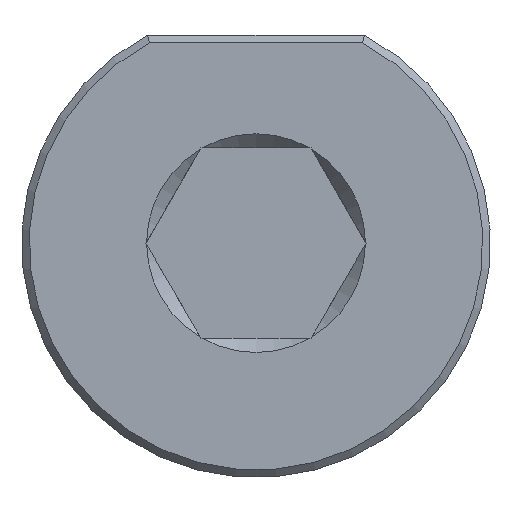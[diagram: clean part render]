
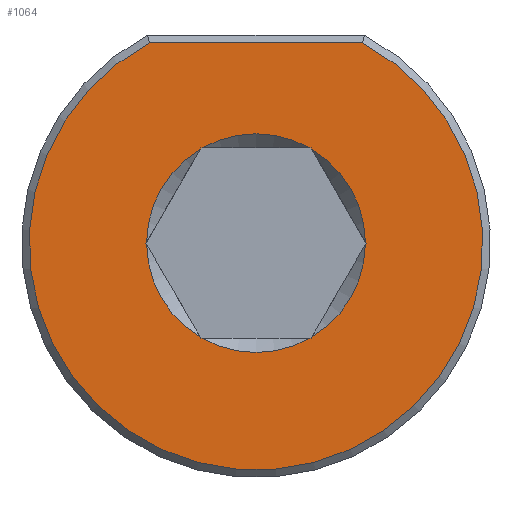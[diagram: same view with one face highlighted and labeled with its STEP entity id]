
A CAD part, front view. The second image highlights one B-rep face of the part: STEP entity #1064.
In plain terms, the highlighted planar face has unit normal (0, -1, 0).
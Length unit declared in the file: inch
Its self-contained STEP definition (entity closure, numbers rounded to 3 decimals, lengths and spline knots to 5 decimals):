
#46=PLANE('',#1187);
#73=FACE_BOUND('',#262,.T.);
#100=CIRCLE('',#1181,0.5975);
#105=CIRCLE('',#1188,0.288);
#106=CIRCLE('',#1189,0.288);
#107=CIRCLE('',#1190,0.288);
#108=CIRCLE('',#1191,0.288);
#109=CIRCLE('',#1192,0.288);
#110=CIRCLE('',#1193,0.288);
#196=FACE_OUTER_BOUND('',#261,.T.);
#261=EDGE_LOOP('',(#815,#816));
#262=EDGE_LOOP('',(#817,#818,#819,#820,#821,#822,#823,#824,#825,#826,#827,
#828,#829,#830,#831,#832,#833,#834));
#329=LINE('',#1932,#385);
#331=LINE('',#1956,#387);
#332=LINE('',#1958,#388);
#333=LINE('',#1962,#389);
#334=LINE('',#1964,#390);
#335=LINE('',#1968,#391);
#336=LINE('',#1970,#392);
#337=LINE('',#1974,#393);
#338=LINE('',#1976,#394);
#339=LINE('',#1980,#395);
#340=LINE('',#1982,#396);
#341=LINE('',#1986,#397);
#342=LINE('',#1988,#398);
#385=VECTOR('',#1376,0.3937);
#387=VECTOR('',#1394,0.3937);
#388=VECTOR('',#1395,0.3937);
#389=VECTOR('',#1398,0.3937);
#390=VECTOR('',#1399,0.3937);
#391=VECTOR('',#1402,0.3937);
#392=VECTOR('',#1403,0.3937);
#393=VECTOR('',#1406,0.3937);
#394=VECTOR('',#1407,0.3937);
#395=VECTOR('',#1410,0.3937);
#396=VECTOR('',#1411,0.3937);
#397=VECTOR('',#1414,0.3937);
#398=VECTOR('',#1415,0.3937);
#478=VERTEX_POINT('',#1930);
#479=VERTEX_POINT('',#1931);
#484=VERTEX_POINT('',#1954);
#485=VERTEX_POINT('',#1955);
#486=VERTEX_POINT('',#1957);
#487=VERTEX_POINT('',#1959);
#488=VERTEX_POINT('',#1961);
#489=VERTEX_POINT('',#1963);
#490=VERTEX_POINT('',#1965);
#491=VERTEX_POINT('',#1967);
#492=VERTEX_POINT('',#1969);
#493=VERTEX_POINT('',#1971);
#494=VERTEX_POINT('',#1973);
#495=VERTEX_POINT('',#1975);
#496=VERTEX_POINT('',#1977);
#497=VERTEX_POINT('',#1979);
#498=VERTEX_POINT('',#1981);
#499=VERTEX_POINT('',#1983);
#500=VERTEX_POINT('',#1985);
#501=VERTEX_POINT('',#1987);
#603=EDGE_CURVE('',#478,#479,#329,.T.);
#607=EDGE_CURVE('',#479,#478,#100,.T.);
#612=EDGE_CURVE('',#484,#485,#331,.T.);
#613=EDGE_CURVE('',#485,#486,#332,.T.);
#614=EDGE_CURVE('',#487,#486,#105,.T.);
#615=EDGE_CURVE('',#487,#488,#333,.T.);
#616=EDGE_CURVE('',#488,#489,#334,.T.);
#617=EDGE_CURVE('',#490,#489,#106,.T.);
#618=EDGE_CURVE('',#490,#491,#335,.T.);
#619=EDGE_CURVE('',#491,#492,#336,.T.);
#620=EDGE_CURVE('',#493,#492,#107,.T.);
#621=EDGE_CURVE('',#493,#494,#337,.T.);
#622=EDGE_CURVE('',#494,#495,#338,.T.);
#623=EDGE_CURVE('',#496,#495,#108,.T.);
#624=EDGE_CURVE('',#496,#497,#339,.T.);
#625=EDGE_CURVE('',#497,#498,#340,.T.);
#626=EDGE_CURVE('',#499,#498,#109,.T.);
#627=EDGE_CURVE('',#499,#500,#341,.T.);
#628=EDGE_CURVE('',#500,#501,#342,.T.);
#629=EDGE_CURVE('',#484,#501,#110,.T.);
#815=ORIENTED_EDGE('',*,*,#603,.F.);
#816=ORIENTED_EDGE('',*,*,#607,.F.);
#817=ORIENTED_EDGE('',*,*,#612,.T.);
#818=ORIENTED_EDGE('',*,*,#613,.T.);
#819=ORIENTED_EDGE('',*,*,#614,.F.);
#820=ORIENTED_EDGE('',*,*,#615,.T.);
#821=ORIENTED_EDGE('',*,*,#616,.T.);
#822=ORIENTED_EDGE('',*,*,#617,.F.);
#823=ORIENTED_EDGE('',*,*,#618,.T.);
#824=ORIENTED_EDGE('',*,*,#619,.T.);
#825=ORIENTED_EDGE('',*,*,#620,.F.);
#826=ORIENTED_EDGE('',*,*,#621,.T.);
#827=ORIENTED_EDGE('',*,*,#622,.T.);
#828=ORIENTED_EDGE('',*,*,#623,.F.);
#829=ORIENTED_EDGE('',*,*,#624,.T.);
#830=ORIENTED_EDGE('',*,*,#625,.T.);
#831=ORIENTED_EDGE('',*,*,#626,.F.);
#832=ORIENTED_EDGE('',*,*,#627,.T.);
#833=ORIENTED_EDGE('',*,*,#628,.T.);
#834=ORIENTED_EDGE('',*,*,#629,.F.);
#1064=ADVANCED_FACE('',(#196,#73),#46,.T.);
#1181=AXIS2_PLACEMENT_3D('',#1943,#1380,#1381);
#1187=AXIS2_PLACEMENT_3D('',#1953,#1392,#1393);
#1188=AXIS2_PLACEMENT_3D('',#1960,#1396,#1397);
#1189=AXIS2_PLACEMENT_3D('',#1966,#1400,#1401);
#1190=AXIS2_PLACEMENT_3D('',#1972,#1404,#1405);
#1191=AXIS2_PLACEMENT_3D('',#1978,#1408,#1409);
#1192=AXIS2_PLACEMENT_3D('',#1984,#1412,#1413);
#1193=AXIS2_PLACEMENT_3D('',#1989,#1416,#1417);
#1376=DIRECTION('',(1.,0.,0.));
#1380=DIRECTION('center_axis',(0.,1.,0.));
#1381=DIRECTION('ref_axis',(0.,0.,-1.));
#1392=DIRECTION('center_axis',(0.,-1.,0.));
#1393=DIRECTION('ref_axis',(0.,0.,-1.));
#1394=DIRECTION('',(0.5,0.,-0.866));
#1395=DIRECTION('',(-0.5,0.,-0.866));
#1396=DIRECTION('center_axis',(0.,-1.,0.));
#1397=DIRECTION('ref_axis',(0.,0.,1.));
#1398=DIRECTION('',(-0.5,0.,-0.866));
#1399=DIRECTION('',(-1.,0.,0.));
#1400=DIRECTION('center_axis',(0.,-1.,0.));
#1401=DIRECTION('ref_axis',(0.,0.,1.));
#1402=DIRECTION('',(-1.,0.,0.));
#1403=DIRECTION('',(-0.5,0.,0.866));
#1404=DIRECTION('center_axis',(0.,-1.,0.));
#1405=DIRECTION('ref_axis',(0.,0.,1.));
#1406=DIRECTION('',(-0.5,0.,0.866));
#1407=DIRECTION('',(0.5,0.,0.866));
#1408=DIRECTION('center_axis',(0.,-1.,0.));
#1409=DIRECTION('ref_axis',(0.,0.,1.));
#1410=DIRECTION('',(0.5,0.,0.866));
#1411=DIRECTION('',(1.,0.,0.));
#1412=DIRECTION('center_axis',(0.,-1.,0.));
#1413=DIRECTION('ref_axis',(0.,0.,1.));
#1414=DIRECTION('',(1.,0.,0.));
#1415=DIRECTION('',(0.5,0.,-0.866));
#1416=DIRECTION('center_axis',(0.,-1.,0.));
#1417=DIRECTION('ref_axis',(0.,0.,1.));
#1930=CARTESIAN_POINT('',(-0.28062,0.,0.5275));
#1931=CARTESIAN_POINT('',(0.28062,0.,0.5275));
#1932=CARTESIAN_POINT('',(0.14278,0.,0.5275));
#1943=CARTESIAN_POINT('Origin',(0.,0.,0.));
#1953=CARTESIAN_POINT('Origin',(0.,0.,-0.248));
#1954=CARTESIAN_POINT('',(0.28798,0.,0.0032));
#1955=CARTESIAN_POINT('',(0.28983,0.,0.));
#1956=CARTESIAN_POINT('',(0.23484,0.,0.09525));
#1957=CARTESIAN_POINT('',(0.28798,0.,-0.0032));
#1958=CARTESIAN_POINT('',(0.19991,0.,-0.15575));
#1959=CARTESIAN_POINT('',(0.14676,0.,-0.2478));
#1960=CARTESIAN_POINT('Origin',(0.,0.,0.));
#1961=CARTESIAN_POINT('',(0.14491,0.,-0.251));
#1962=CARTESIAN_POINT('',(0.19991,0.,-0.15575));
#1963=CARTESIAN_POINT('',(0.14122,0.,-0.251));
#1964=CARTESIAN_POINT('',(0.07246,0.,-0.251));
#1965=CARTESIAN_POINT('',(-0.14122,0.,-0.251));
#1966=CARTESIAN_POINT('Origin',(0.,0.,0.));
#1967=CARTESIAN_POINT('',(-0.14491,0.,-0.251));
#1968=CARTESIAN_POINT('',(0.07246,0.,-0.251));
#1969=CARTESIAN_POINT('',(-0.14676,0.,-0.2478));
#1970=CARTESIAN_POINT('',(-0.12745,0.,-0.28125));
#1971=CARTESIAN_POINT('',(-0.28798,0.,-0.0032));
#1972=CARTESIAN_POINT('Origin',(0.,0.,0.));
#1973=CARTESIAN_POINT('',(-0.28983,0.,0.));
#1974=CARTESIAN_POINT('',(-0.12745,0.,-0.28125));
#1975=CARTESIAN_POINT('',(-0.28798,0.,0.0032));
#1976=CARTESIAN_POINT('',(-0.30729,0.,-0.03025));
#1977=CARTESIAN_POINT('',(-0.14676,0.,0.2478));
#1978=CARTESIAN_POINT('Origin',(0.,0.,0.));
#1979=CARTESIAN_POINT('',(-0.14491,0.,0.251));
#1980=CARTESIAN_POINT('',(-0.30729,0.,-0.03025));
#1981=CARTESIAN_POINT('',(-0.14122,0.,0.251));
#1982=CARTESIAN_POINT('',(-0.07246,0.,0.251));
#1983=CARTESIAN_POINT('',(0.14122,0.,0.251));
#1984=CARTESIAN_POINT('Origin',(0.,0.,0.));
#1985=CARTESIAN_POINT('',(0.14491,0.,0.251));
#1986=CARTESIAN_POINT('',(-0.07246,0.,0.251));
#1987=CARTESIAN_POINT('',(0.14676,0.,0.2478));
#1988=CARTESIAN_POINT('',(0.23484,0.,0.09525));
#1989=CARTESIAN_POINT('Origin',(0.,0.,0.));
